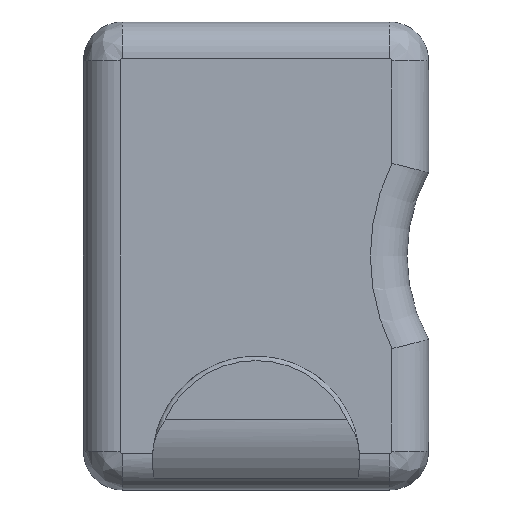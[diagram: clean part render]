
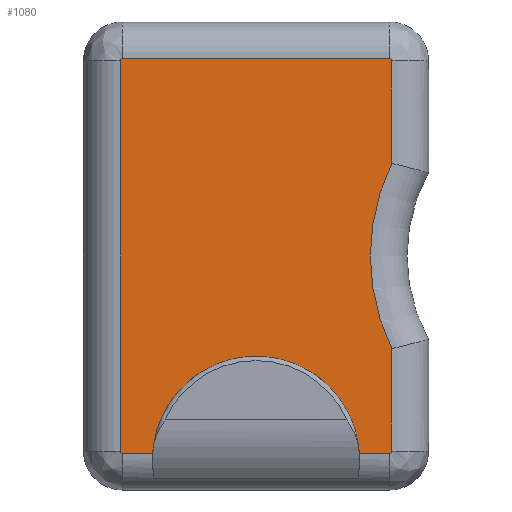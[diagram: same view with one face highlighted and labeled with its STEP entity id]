
A CAD part, left-side view. The second image highlights one B-rep face of the part: STEP entity #1080.
In plain terms, the highlighted planar face has unit normal (-1, 0, 0).
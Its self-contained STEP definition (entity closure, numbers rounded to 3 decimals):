
#272=DIRECTION('',(0.,0.,-1.));
#273=VECTOR('',#272,2.38);
#274=CARTESIAN_POINT('',(-1.15,-3.15,-2.145));
#275=LINE('',#274,#273);
#292=CARTESIAN_POINT('',(-1.15,0.,-4.725));
#293=DIRECTION('',(1.,0.,0.));
#294=DIRECTION('',(0.,0.998,0.063));
#295=AXIS2_PLACEMENT_3D('',#292,#293,#294);
#321=DIRECTION('',(0.,1.,0.));
#322=VECTOR('',#321,0.705);
#323=CARTESIAN_POINT('',(-1.15,-3.1,-4.575));
#324=LINE('',#323,#322);
#334=DIRECTION('',(0.,1.,0.));
#335=VECTOR('',#334,0.705);
#336=CARTESIAN_POINT('',(-1.15,2.395,-4.575));
#337=LINE('',#336,#335);
#346=CARTESIAN_POINT('',(-1.15,-3.1,-4.525));
#347=DIRECTION('',(1.,0.,0.));
#348=DIRECTION('',(0.,-1.,0.));
#349=AXIS2_PLACEMENT_3D('',#346,#347,#348);
#361=CARTESIAN_POINT('',(-1.15,3.1,-4.525));
#362=DIRECTION('',(1.,0.,0.));
#363=DIRECTION('',(0.,0.,-1.));
#364=AXIS2_PLACEMENT_3D('',#361,#362,#363);
#376=DIRECTION('',(0.,0.,1.));
#377=VECTOR('',#376,9.05);
#378=CARTESIAN_POINT('',(-1.15,3.15,-4.525));
#379=LINE('',#378,#377);
#389=CARTESIAN_POINT('',(-1.15,3.1,4.525));
#390=DIRECTION('',(1.,0.,0.));
#391=DIRECTION('',(0.,1.,0.));
#392=AXIS2_PLACEMENT_3D('',#389,#390,#391);
#404=DIRECTION('',(0.,-1.,0.));
#405=VECTOR('',#404,6.2);
#406=CARTESIAN_POINT('',(-1.15,3.1,4.575));
#407=LINE('',#406,#405);
#417=CARTESIAN_POINT('',(-1.15,-3.1,4.525));
#418=DIRECTION('',(1.,0.,0.));
#419=DIRECTION('',(0.,0.,1.));
#420=AXIS2_PLACEMENT_3D('',#417,#418,#419);
#432=DIRECTION('',(0.,0.,-1.));
#433=VECTOR('',#432,2.38);
#434=CARTESIAN_POINT('',(-1.15,-3.15,4.525));
#435=LINE('',#434,#433);
#457=CARTESIAN_POINT('',(-1.15,-7.5,0.));
#458=DIRECTION('',(-1.,0.,0.));
#459=DIRECTION('',(0.,0.897,0.442));
#460=AXIS2_PLACEMENT_3D('',#457,#458,#459);
#557=CARTESIAN_POINT('',(-1.15,-3.15,-2.145));
#558=CARTESIAN_POINT('',(-1.15,-3.15,-4.525));
#559=VERTEX_POINT('',#557);
#560=VERTEX_POINT('',#558);
#565=CARTESIAN_POINT('',(-1.15,-3.1,-4.575));
#566=VERTEX_POINT('',#565);
#569=CARTESIAN_POINT('',(-1.15,3.1,-4.575));
#570=CARTESIAN_POINT('',(-1.15,3.15,-4.525));
#571=VERTEX_POINT('',#569);
#572=VERTEX_POINT('',#570);
#577=CARTESIAN_POINT('',(-1.15,3.15,4.525));
#578=VERTEX_POINT('',#577);
#581=CARTESIAN_POINT('',(-1.15,3.1,4.575));
#582=VERTEX_POINT('',#581);
#585=CARTESIAN_POINT('',(-1.15,-3.1,4.575));
#586=VERTEX_POINT('',#585);
#589=CARTESIAN_POINT('',(-1.15,-3.15,4.525));
#590=VERTEX_POINT('',#589);
#593=CARTESIAN_POINT('',(-1.15,-3.15,2.145));
#594=VERTEX_POINT('',#593);
#597=CARTESIAN_POINT('',(-1.15,2.395,-4.575));
#598=CARTESIAN_POINT('',(-1.15,-2.395,-4.575));
#599=VERTEX_POINT('',#597);
#600=VERTEX_POINT('',#598);
#1050=CARTESIAN_POINT('',(-1.15,0.,0.));
#1051=DIRECTION('',(1.,0.,0.));
#1052=DIRECTION('',(0.,0.,1.));
#1053=AXIS2_PLACEMENT_3D('',#1050,#1051,#1052);
#1054=PLANE('',#1053);
#1056=ORIENTED_EDGE('',*,*,#1055,.F.);
#1058=ORIENTED_EDGE('',*,*,#1057,.T.);
#1060=ORIENTED_EDGE('',*,*,#1059,.T.);
#1062=ORIENTED_EDGE('',*,*,#1061,.T.);
#1064=ORIENTED_EDGE('',*,*,#1063,.T.);
#1066=ORIENTED_EDGE('',*,*,#1065,.T.);
#1068=ORIENTED_EDGE('',*,*,#1067,.T.);
#1070=ORIENTED_EDGE('',*,*,#1069,.T.);
#1072=ORIENTED_EDGE('',*,*,#1071,.T.);
#1073=ORIENTED_EDGE('',*,*,#1040,.T.);
#1075=ORIENTED_EDGE('',*,*,#1074,.T.);
#1077=ORIENTED_EDGE('',*,*,#1076,.T.);
#1078=EDGE_LOOP('',(#1056,#1058,#1060,#1062,#1064,#1066,#1068,#1070,#1072,#1073,
#1075,#1077));
#1079=FACE_OUTER_BOUND('',#1078,.F.);
#1080=ADVANCED_FACE('',(#1079),#1054,.F.);
#296=CIRCLE('',#295,2.4);
#350=CIRCLE('',#349,0.05);
#365=CIRCLE('',#364,0.05);
#393=CIRCLE('',#392,0.05);
#421=CIRCLE('',#420,0.05);
#461=CIRCLE('',#460,4.85);
#1040=EDGE_CURVE('',#559,#560,#275,.T.);
#1055=EDGE_CURVE('',#599,#600,#296,.T.);
#1057=EDGE_CURVE('',#599,#571,#337,.T.);
#1059=EDGE_CURVE('',#571,#572,#365,.T.);
#1061=EDGE_CURVE('',#572,#578,#379,.T.);
#1063=EDGE_CURVE('',#578,#582,#393,.T.);
#1065=EDGE_CURVE('',#582,#586,#407,.T.);
#1067=EDGE_CURVE('',#586,#590,#421,.T.);
#1069=EDGE_CURVE('',#590,#594,#435,.T.);
#1071=EDGE_CURVE('',#594,#559,#461,.T.);
#1074=EDGE_CURVE('',#560,#566,#350,.T.);
#1076=EDGE_CURVE('',#566,#600,#324,.T.);
